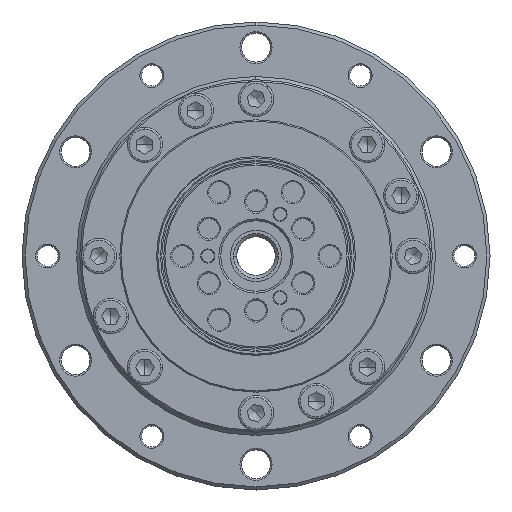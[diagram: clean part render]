
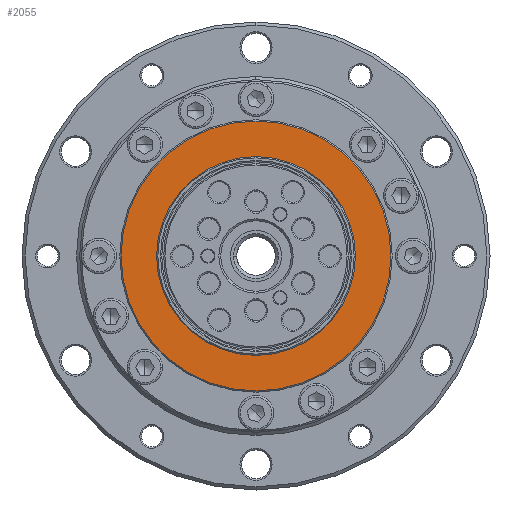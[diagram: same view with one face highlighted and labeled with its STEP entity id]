
A CAD part, left-side view. The second image highlights one B-rep face of the part: STEP entity #2055.
In plain terms, the highlighted planar face has unit normal (-1, 0, 0).
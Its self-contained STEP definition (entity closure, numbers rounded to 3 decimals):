
#2055=ADVANCED_FACE('',(#4310,#4311),#4312,.T.);
#4310=FACE_BOUND('',#7971,.T.);
#4311=FACE_OUTER_BOUND('',#7972,.T.);
#4312=PLANE('',#7973);
#7971=EDGE_LOOP('',(#14105,#14106));
#7972=EDGE_LOOP('',(#14107,#14108));
#7973=AXIS2_PLACEMENT_3D('',#14109,#14110,#14111);
#14105=ORIENTED_EDGE('',*,*,#16308,.F.);
#14106=ORIENTED_EDGE('',*,*,#18062,.F.);
#14107=ORIENTED_EDGE('',*,*,#18063,.F.);
#14108=ORIENTED_EDGE('',*,*,#16287,.F.);
#14109=CARTESIAN_POINT('',(-33.5,0.,-20.0));
#14110=DIRECTION('',(-1.0,0.,0.));
#14111=DIRECTION('',(0.,0.0,-1.0));
#16287=EDGE_CURVE('',#19419,#19421,#19422,.F.);
#16308=EDGE_CURVE('',#19449,#19446,#19451,.T.);
#18062=EDGE_CURVE('',#19446,#19449,#21984,.T.);
#18063=EDGE_CURVE('',#19421,#19419,#21985,.F.);
#19419=VERTEX_POINT('',#24220);
#19421=VERTEX_POINT('',#24223);
#19422=CIRCLE('',#24224,21.05);
#19446=VERTEX_POINT('',#24255);
#19449=VERTEX_POINT('',#24259);
#19451=CIRCLE('',#24262,15.5);
#21984=CIRCLE('',#28570,15.5);
#21985=CIRCLE('',#28571,21.05);
#24220=CARTESIAN_POINT('',(-33.5,0.,21.05));
#24223=CARTESIAN_POINT('',(-33.5,0.,-21.05));
#24224=AXIS2_PLACEMENT_3D('',#30240,#30241,#30242);
#24255=CARTESIAN_POINT('',(-33.5,0.,-15.5));
#24259=CARTESIAN_POINT('',(-33.5,0.,15.5));
#24262=AXIS2_PLACEMENT_3D('',#30273,#30274,#30275);
#28570=AXIS2_PLACEMENT_3D('',#33142,#33143,#33144);
#28571=AXIS2_PLACEMENT_3D('',#33145,#33146,#33147);
#30240=CARTESIAN_POINT('',(-33.5,0.,0.));
#30241=DIRECTION('',(-1.0,0.,0.));
#30242=DIRECTION('',(0.,0.,1.0));
#30273=CARTESIAN_POINT('',(-33.5,0.0,0.0));
#30274=DIRECTION('',(-1.0,0.,0.));
#30275=DIRECTION('',(0.,0.,-1.0));
#33142=CARTESIAN_POINT('',(-33.5,0.0,0.0));
#33143=DIRECTION('',(-1.0,0.,0.));
#33144=DIRECTION('',(0.,0.,-1.0));
#33145=CARTESIAN_POINT('',(-33.5,0.,0.));
#33146=DIRECTION('',(-1.0,0.,0.));
#33147=DIRECTION('',(0.,0.,1.0));
